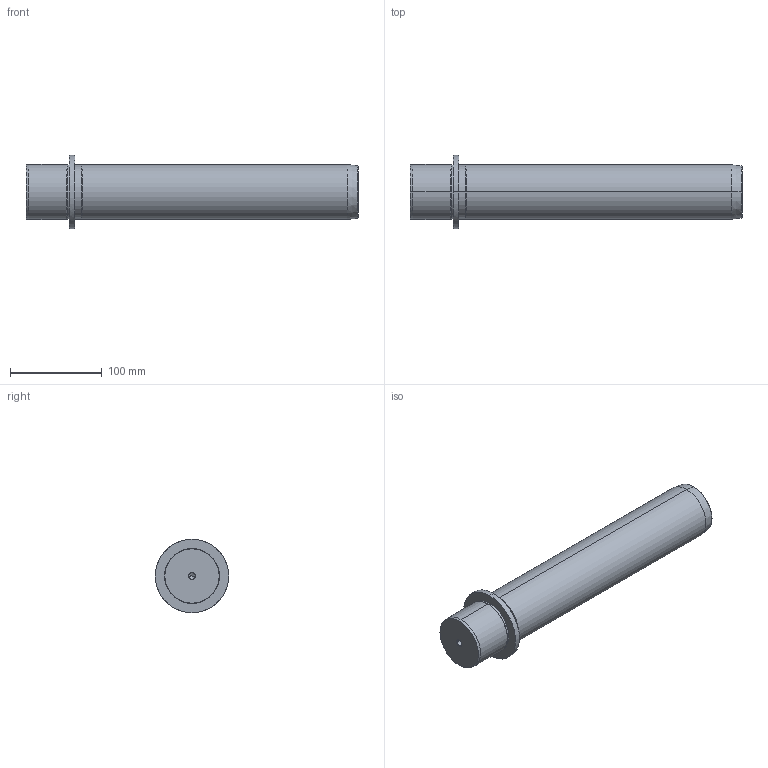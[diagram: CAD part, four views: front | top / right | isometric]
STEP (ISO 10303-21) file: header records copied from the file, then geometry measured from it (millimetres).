
FILE_DESCRIPTION(('CATIA V5 STEP Exchange'),'2;1');
FILE_NAME('C:\Users\Utente\Desktop\IO LAVORO\3D X SITO CF\X SITO\719\719-60x315.stp','2021-01-03T14:50:39+00:00',('none'),('none'),'CATIA Version 5 Release 20 GA (IN-10)','CATIA V5 STEP AP203','none');
FILE_SCHEMA(('CONFIG_CONTROL_DESIGN'));
Length unit declared in the file: millimetre
Products named in the file (1): 719-60x315
Bounding box: 362 x 80 x 80 mm (x, y, z)
Volume: 1032140.5 mm3; surface area: 79413.7 mm2
Topology: 1 solids, 1 shells, 36 faces, 100 edges, 66 vertices
Faces by surface type: cone 16, cylinder 14, plane 4, torus 2
Entity records: 1267 total; most frequent: CARTESIAN_POINT 334, ORIENTED_EDGE 192, DIRECTION 159, EDGE_CURVE 96, AXIS2_PLACEMENT_3D 94, VERTEX_POINT 66, CIRCLE 57, EDGE_LOOP 40
